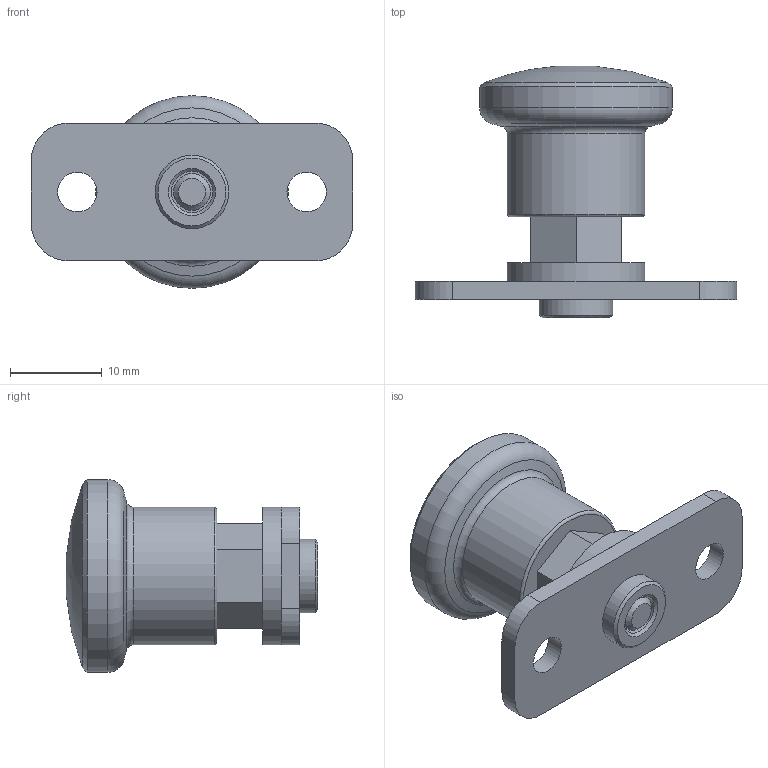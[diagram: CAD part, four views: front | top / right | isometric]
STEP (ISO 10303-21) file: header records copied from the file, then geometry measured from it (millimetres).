
FILE_DESCRIPTION( ( 'STEP AP203' ), '1' );
FILE_NAME( 'C:/Temp/Ganter_Step_05_03_2020/data/3_1/gn822_9/gn822_9_b/Stainless Steel-Mini indexing plunger GN 822.9-4-5-B (activated).stp', '2020-03-12T09:24:25', ( 'License CC BY-ND 4.0' ), ( 'CADENAS' ), ' ', 'PARTsolutions', ' ' );
FILE_SCHEMA( ( 'CONFIG_CONTROL_DESIGN' ) );
Length unit declared in the file: millimetre
Products named in the file (3): Stainless Steel-Mini indexing plunger GN 822.9-4-5-B (activated); _Stainless Steel-Mini indexing plunger GN 822.9-4-5-B (deactivated)_1; _Stainless Steel-Mini indexing plunger GN 822.9-4-5-B (unbetaetigt)_2
Assembly tree (2 placements, depth 2):
  Stainless Steel-Mini indexing plunger GN 822.9-4-5-B (activated)
    _Stainless Steel-Mini indexing plunger GN 822.9-4-5-B (deactivated)_1
    _Stainless Steel-Mini indexing plunger GN 822.9-4-5-B (unbetaetigt)_2
Bounding box: 35 x 27.43 x 21 mm (x, y, z)
Volume: 5005 mm3; surface area: 4233.9 mm2
Topology: 2 solids, 2 shells, 56 faces, 121 edges, 76 vertices
Faces by surface type: plane 29, cylinder 15, cone 8, torus 3, sphere 1
Full cylindrical faces by diameter (mm): 3 x1, 3.2 x1, 4 x1, 4.3 x2, 4.5 x2, 8 x1, 15 x2, 21 x1
Entity records: 1622 total; most frequent: CARTESIAN_POINT 373, DIRECTION 244, ORIENTED_EDGE 192, AXIS2_PLACEMENT_3D 101, EDGE_CURVE 96, EDGE_LOOP 92, VERTEX_POINT 74, FACE_OUTER_BOUND 71
